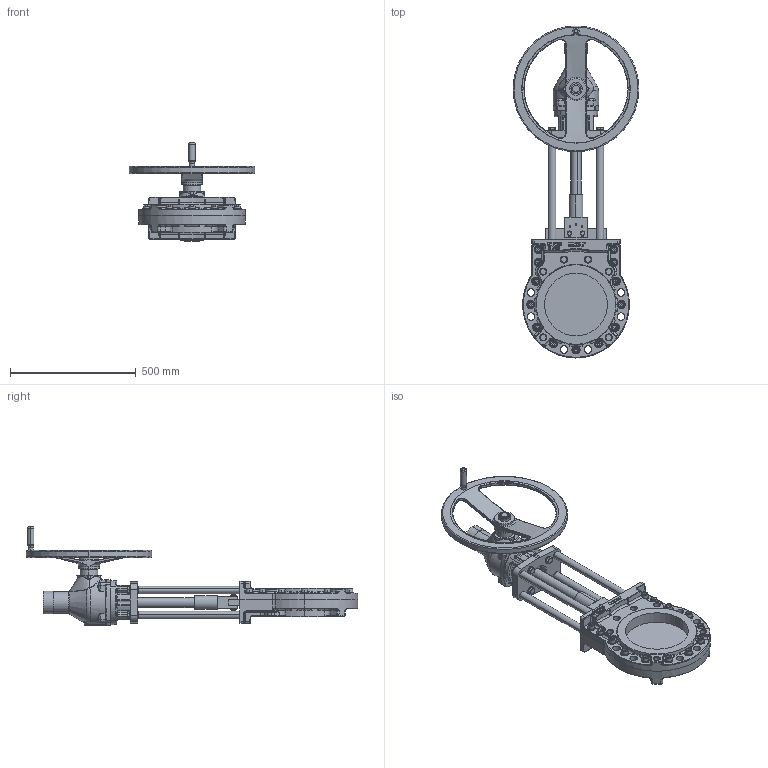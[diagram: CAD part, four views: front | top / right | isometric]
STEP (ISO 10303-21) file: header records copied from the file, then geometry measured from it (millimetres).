
FILE_DESCRIPTION (( 'STEP AP214' ), '1' );
FILE_NAME ('MHA DN 250 GK14.6.STEP', '2015-04-28T08:49:52', ( 'admin' ), ( 'Hewlett-Packard Company' ), 'SwSTEP 2.0', 'SolidWorks 2013', '' );
FILE_SCHEMA (( 'AUTOMOTIVE_DESIGN' ));
Length unit declared in the file: millimetre
Products named in the file (1): MHA DN 250 GK14.6
Bounding box: 500 x 1319.5 x 391 mm (x, y, z)
Volume: 21642919.8 mm3; surface area: 1833843.7 mm2
Topology: 50 solids, 62 shells, 2881 faces, 6925 edges, 4132 vertices
Faces by surface type: plane 934, cylinder 779, bspline 433, cone 394, torus 331, sphere 10
Entity records: 137053 total; most frequent: CARTESIAN_POINT 40307, DIRECTION 13466, ORIENTED_EDGE 13458, EDGE_CURVE 6729, AXIS2_PLACEMENT_3D 5298, VERTEX_POINT 4132, EDGE_LOOP 3141, UNCERTAINTY_MEASURE_WITH_UNIT 2931
